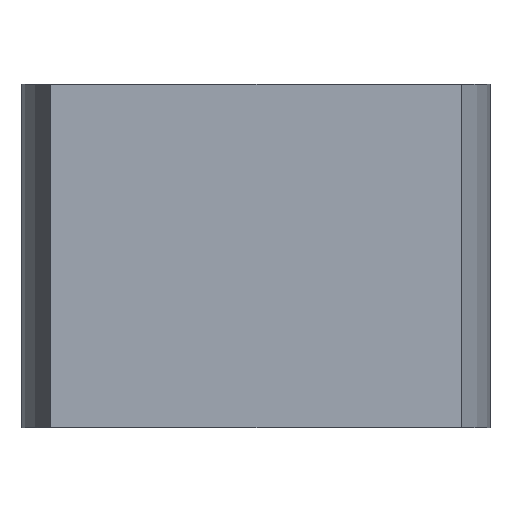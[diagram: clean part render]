
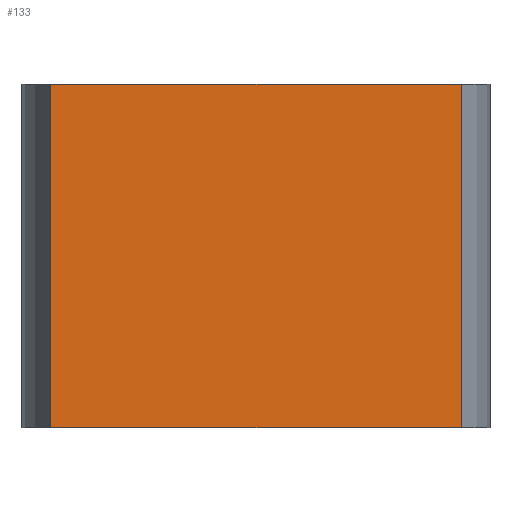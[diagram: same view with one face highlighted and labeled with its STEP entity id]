
A CAD part, left-side view. The second image highlights one B-rep face of the part: STEP entity #133.
In plain terms, the highlighted planar face has unit normal (-1, 0, 0).
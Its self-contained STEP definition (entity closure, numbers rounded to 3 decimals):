
#15=PLANE('',#165);
#20=FACE_OUTER_BOUND('',#28,.T.);
#28=EDGE_LOOP('',(#98,#99,#100,#101));
#36=LINE('',#238,#44);
#37=LINE('',#241,#45);
#38=LINE('',#243,#46);
#39=LINE('',#244,#47);
#44=VECTOR('',#193,10.);
#45=VECTOR('',#196,10.);
#46=VECTOR('',#197,10.);
#47=VECTOR('',#198,10.);
#64=VERTEX_POINT('',#234);
#65=VERTEX_POINT('',#236);
#66=VERTEX_POINT('',#240);
#67=VERTEX_POINT('',#242);
#78=EDGE_CURVE('',#64,#65,#36,.T.);
#79=EDGE_CURVE('',#64,#66,#37,.T.);
#80=EDGE_CURVE('',#67,#65,#38,.T.);
#81=EDGE_CURVE('',#66,#67,#39,.T.);
#98=ORIENTED_EDGE('',*,*,#79,.F.);
#99=ORIENTED_EDGE('',*,*,#78,.T.);
#100=ORIENTED_EDGE('',*,*,#80,.F.);
#101=ORIENTED_EDGE('',*,*,#81,.F.);
#133=ADVANCED_FACE('',(#20),#15,.T.);
#165=AXIS2_PLACEMENT_3D('',#239,#194,#195);
#193=DIRECTION('',(0.,0.,-1.));
#194=DIRECTION('center_axis',(-1.,0.,0.));
#195=DIRECTION('ref_axis',(0.,1.,0.));
#196=DIRECTION('',(0.,-1.,0.));
#197=DIRECTION('',(0.,1.,0.));
#198=DIRECTION('',(0.,0.,-1.));
#234=CARTESIAN_POINT('',(0.,6.58,0.));
#236=CARTESIAN_POINT('',(0.,6.58,-11.));
#238=CARTESIAN_POINT('',(0.,6.58,0.));
#239=CARTESIAN_POINT('Origin',(0.,-6.58,0.));
#240=CARTESIAN_POINT('',(0.,-6.58,0.));
#241=CARTESIAN_POINT('',(0.,6.58,0.));
#242=CARTESIAN_POINT('',(0.,-6.58,-11.));
#243=CARTESIAN_POINT('',(0.,6.58,-11.));
#244=CARTESIAN_POINT('',(0.,-6.58,0.));
